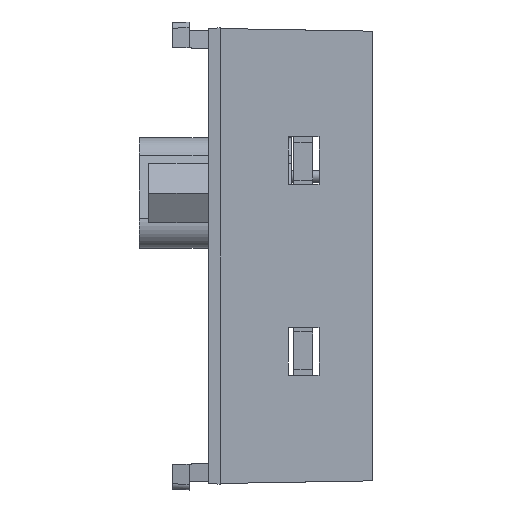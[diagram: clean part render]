
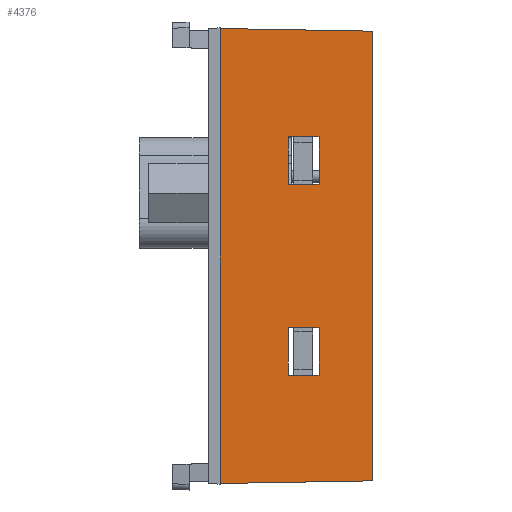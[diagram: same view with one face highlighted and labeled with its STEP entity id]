
A CAD part, left-side view. The second image highlights one B-rep face of the part: STEP entity #4376.
In plain terms, the highlighted planar face has unit normal (-1, -0.018, 0).
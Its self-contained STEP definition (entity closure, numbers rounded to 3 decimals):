
#234 = EDGE_CURVE ( 'NONE', #3996, #14998, #15814, .T. ) ;
#272 = EDGE_LOOP ( 'NONE', ( #608, #7856, #7233, #10113 ) ) ;
#377 = LINE ( 'NONE', #5224, #7508 ) ;
#608 = ORIENTED_EDGE ( 'NONE', *, *, #3532, .T. ) ;
#662 = ORIENTED_EDGE ( 'NONE', *, *, #6225, .T. ) ;
#705 = DIRECTION ( 'NONE',  ( -0.017, 1., -0.017 ) ) ;
#719 = CARTESIAN_POINT ( 'NONE',  ( -199.063, 36.696, -119.4 ) ) ;
#1232 = ORIENTED_EDGE ( 'NONE', *, *, #15856, .F. ) ;
#1378 = EDGE_CURVE ( 'NONE', #8612, #10888, #11692, .T. ) ;
#1735 = VERTEX_POINT ( 'NONE', #8491 ) ;
#1939 = CARTESIAN_POINT ( 'NONE',  ( -198.774, 20.133, -119.4 ) ) ;
#2063 = CARTESIAN_POINT ( 'NONE',  ( -198.838, 23.845, -100.46 ) ) ;
#2402 = CARTESIAN_POINT ( 'NONE',  ( -198.917, 28.363, -129.44 ) ) ;
#2406 = CARTESIAN_POINT ( 'NONE',  ( -198.838, 23.845, -119.4 ) ) ;
#2475 = VERTEX_POINT ( 'NONE', #5388 ) ;
#2494 = LINE ( 'NONE', #7364, #3966 ) ;
#2558 = DIRECTION ( 'NONE',  ( 0., 0., -1. ) ) ;
#2663 = EDGE_LOOP ( 'NONE', ( #7735, #9208, #662, #7465 ) ) ;
#2933 = VERTEX_POINT ( 'NONE', #2402 ) ;
#3532 = EDGE_CURVE ( 'NONE', #13687, #8205, #9897, .T. ) ;
#3670 = DIRECTION ( 'NONE',  ( 0.017, -1., -0.017 ) ) ;
#3760 = CARTESIAN_POINT ( 'NONE',  ( -198.917, 28.363, -125.424 ) ) ;
#3775 = DIRECTION ( 'NONE',  ( 0., 0., 1. ) ) ;
#3790 = DIRECTION ( 'NONE',  ( 0.017, -1., 0. ) ) ;
#3795 = LINE ( 'NONE', #8686, #7285 ) ;
#3855 = VECTOR ( 'NONE', #7282, 1000. ) ;
#3966 = VECTOR ( 'NONE', #12294, 1000. ) ;
#3977 = CARTESIAN_POINT ( 'NONE',  ( -199.063, 36.696, -100.235 ) ) ;
#3996 = VERTEX_POINT ( 'NONE', #6416 ) ;
#4240 = PLANE ( 'NONE',  #9589 ) ;
#4272 = VECTOR ( 'NONE', #3790, 1000. ) ;
#4376 = ADVANCED_FACE ( 'NONE', ( #5421, #10335, #15315 ), #4240, .T. ) ;
#4419 = LINE ( 'NONE', #9309, #4903 ) ;
#4690 = VECTOR ( 'NONE', #9617, 1000. ) ;
#4741 = CARTESIAN_POINT ( 'NONE',  ( -198.774, 20.133, -109.36 ) ) ;
#4903 = VECTOR ( 'NONE', #14277, 1000. ) ;
#5058 = EDGE_CURVE ( 'NONE', #1735, #3996, #9870, .T. ) ;
#5098 = CARTESIAN_POINT ( 'NONE',  ( -198.917, 28.363, -113.376 ) ) ;
#5224 = CARTESIAN_POINT ( 'NONE',  ( -198.917, 28.363, -119.4 ) ) ;
#5388 = CARTESIAN_POINT ( 'NONE',  ( -198.963, 30.973, -129.44 ) ) ;
#5421 = FACE_BOUND ( 'NONE', #2663, .T. ) ;
#5562 = DIRECTION ( 'NONE',  ( 0., 0., 1. ) ) ;
#5644 = VECTOR ( 'NONE', #2558, 1000. ) ;
#5985 = CARTESIAN_POINT ( 'NONE',  ( -199.063, 36.696, -138.564 ) ) ;
#6225 = EDGE_CURVE ( 'NONE', #7152, #1735, #2494, .T. ) ;
#6348 = ORIENTED_EDGE ( 'NONE', *, *, #11157, .T. ) ;
#6416 = CARTESIAN_POINT ( 'NONE',  ( -198.963, 30.973, -109.36 ) ) ;
#6430 = EDGE_CURVE ( 'NONE', #2475, #13687, #3795, .T. ) ;
#6775 = LINE ( 'NONE', #11677, #12836 ) ;
#6817 = DIRECTION ( 'NONE',  ( -1., -0.017, 0. ) ) ;
#7152 = VERTEX_POINT ( 'NONE', #5098 ) ;
#7233 = ORIENTED_EDGE ( 'NONE', *, *, #12444, .T. ) ;
#7282 = DIRECTION ( 'NONE',  ( 0., 0., 1. ) ) ;
#7285 = VECTOR ( 'NONE', #13645, 1000. ) ;
#7364 = CARTESIAN_POINT ( 'NONE',  ( -198.774, 20.133, -113.376 ) ) ;
#7381 = EDGE_CURVE ( 'NONE', #8205, #2933, #377, .T. ) ;
#7465 = ORIENTED_EDGE ( 'NONE', *, *, #5058, .T. ) ;
#7508 = VECTOR ( 'NONE', #10136, 1000. ) ;
#7735 = ORIENTED_EDGE ( 'NONE', *, *, #234, .T. ) ;
#7856 = ORIENTED_EDGE ( 'NONE', *, *, #7381, .T. ) ;
#8205 = VERTEX_POINT ( 'NONE', #3760 ) ;
#8211 = EDGE_CURVE ( 'NONE', #14998, #7152, #8643, .T. ) ;
#8491 = CARTESIAN_POINT ( 'NONE',  ( -198.963, 30.973, -113.376 ) ) ;
#8612 = VERTEX_POINT ( 'NONE', #5985 ) ;
#8643 = LINE ( 'NONE', #13603, #5644 ) ;
#8686 = CARTESIAN_POINT ( 'NONE',  ( -198.963, 30.973, -119.4 ) ) ;
#9070 = CARTESIAN_POINT ( 'NONE',  ( -198.963, 30.973, -125.424 ) ) ;
#9101 = CARTESIAN_POINT ( 'NONE',  ( -198.838, 23.845, -138.34 ) ) ;
#9208 = ORIENTED_EDGE ( 'NONE', *, *, #8211, .T. ) ;
#9309 = CARTESIAN_POINT ( 'NONE',  ( -198.774, 20.133, -129.44 ) ) ;
#9568 = ORIENTED_EDGE ( 'NONE', *, *, #9961, .F. ) ;
#9589 = AXIS2_PLACEMENT_3D ( 'NONE', #1939, #6817, #11718 ) ;
#9617 = DIRECTION ( 'NONE',  ( 0.017, -1., 0. ) ) ;
#9748 = LINE ( 'NONE', #14745, #10072 ) ;
#9849 = EDGE_LOOP ( 'NONE', ( #12277, #9568, #6348, #1232 ) ) ;
#9870 = LINE ( 'NONE', #14853, #10617 ) ;
#9897 = LINE ( 'NONE', #14872, #4272 ) ;
#9961 = EDGE_CURVE ( 'NONE', #15327, #8612, #6775, .T. ) ;
#10072 = VECTOR ( 'NONE', #3670, 1000. ) ;
#10113 = ORIENTED_EDGE ( 'NONE', *, *, #6430, .T. ) ;
#10136 = DIRECTION ( 'NONE',  ( 0., 0., -1. ) ) ;
#10335 = FACE_BOUND ( 'NONE', #272, .T. ) ;
#10617 = VECTOR ( 'NONE', #3775, 1000. ) ;
#10888 = VERTEX_POINT ( 'NONE', #3977 ) ;
#11157 = EDGE_CURVE ( 'NONE', #15327, #13074, #13436, .T. ) ;
#11677 = CARTESIAN_POINT ( 'NONE',  ( -198.838, 23.845, -138.34 ) ) ;
#11692 = LINE ( 'NONE', #719, #13924 ) ;
#11718 = DIRECTION ( 'NONE',  ( 0.017, -1., 0. ) ) ;
#12277 = ORIENTED_EDGE ( 'NONE', *, *, #1378, .F. ) ;
#12294 = DIRECTION ( 'NONE',  ( -0.017, 1., 0. ) ) ;
#12444 = EDGE_CURVE ( 'NONE', #2933, #2475, #4419, .T. ) ;
#12836 = VECTOR ( 'NONE', #705, 1000. ) ;
#13031 = CARTESIAN_POINT ( 'NONE',  ( -198.917, 28.363, -109.36 ) ) ;
#13074 = VERTEX_POINT ( 'NONE', #2063 ) ;
#13436 = LINE ( 'NONE', #2406, #3855 ) ;
#13603 = CARTESIAN_POINT ( 'NONE',  ( -198.917, 28.363, -119.4 ) ) ;
#13645 = DIRECTION ( 'NONE',  ( 0., 0., 1. ) ) ;
#13687 = VERTEX_POINT ( 'NONE', #9070 ) ;
#13924 = VECTOR ( 'NONE', #5562, 1000. ) ;
#14277 = DIRECTION ( 'NONE',  ( -0.017, 1., 0. ) ) ;
#14745 = CARTESIAN_POINT ( 'NONE',  ( -199.063, 36.696, -100.235 ) ) ;
#14853 = CARTESIAN_POINT ( 'NONE',  ( -198.963, 30.973, -119.4 ) ) ;
#14872 = CARTESIAN_POINT ( 'NONE',  ( -198.774, 20.133, -125.424 ) ) ;
#14998 = VERTEX_POINT ( 'NONE', #13031 ) ;
#15315 = FACE_OUTER_BOUND ( 'NONE', #9849, .T. ) ;
#15327 = VERTEX_POINT ( 'NONE', #9101 ) ;
#15814 = LINE ( 'NONE', #4741, #4690 ) ;
#15856 = EDGE_CURVE ( 'NONE', #10888, #13074, #9748, .T. ) ;
